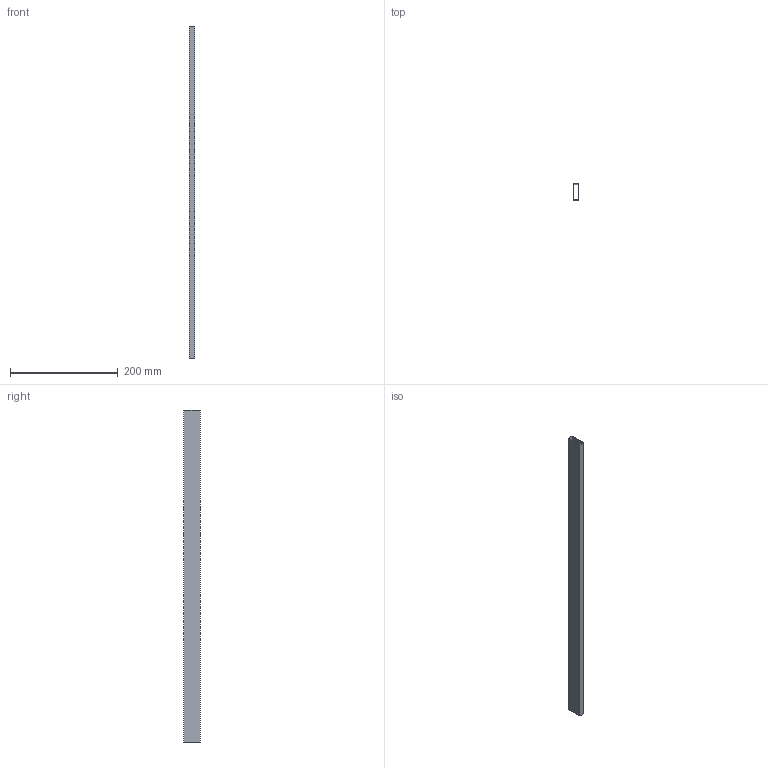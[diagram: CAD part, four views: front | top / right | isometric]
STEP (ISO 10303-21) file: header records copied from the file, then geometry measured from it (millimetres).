
FILE_DESCRIPTION (( 'STEP AP214' ), '1' );
FILE_NAME ('_DWD XP Rechteckreling NL650.step', '2010-07-14T13:27:56', ( 'grass' ), ( '' ), 'SwSTEP 2.0', 'SolidWorks 2010', '' );
FILE_SCHEMA (( 'AUTOMOTIVE_DESIGN' ));
Length unit declared in the file: millimetre
Products named in the file (1): _DWD XP Rechteckreling NL650
Bounding box: 10.5 x 30 x 617.1 mm (x, y, z)
Volume: 29102.4 mm3; surface area: 97102.4 mm2
Topology: 1 solids, 1 shells, 10 faces, 24 edges, 16 vertices
Faces by surface type: plane 10
Entity records: 326 total; most frequent: CARTESIAN_POINT 51, ORIENTED_EDGE 48, DIRECTION 46, LINE 24, VECTOR 24, EDGE_CURVE 24, VERTEX_POINT 16, EDGE_LOOP 12
